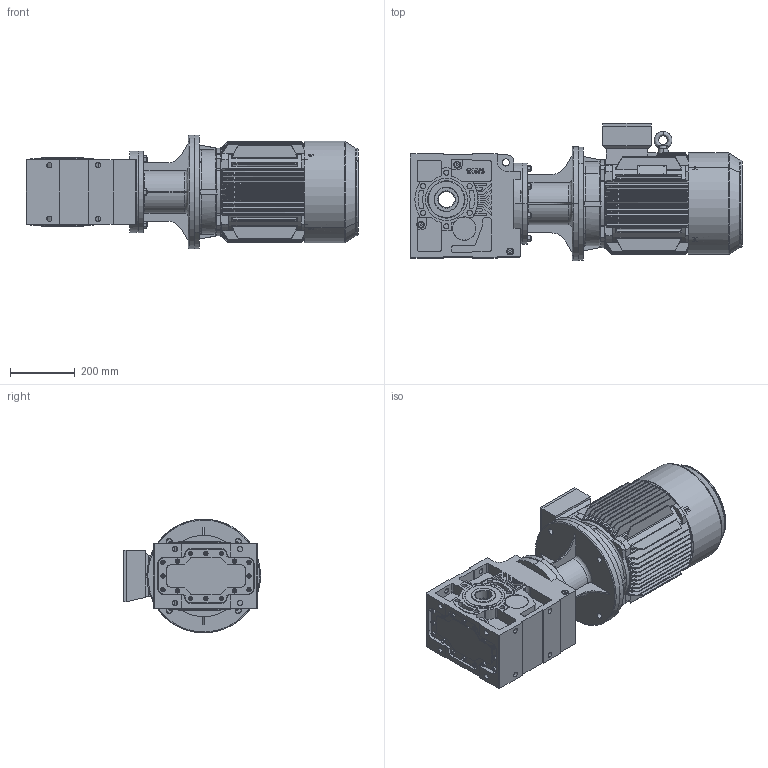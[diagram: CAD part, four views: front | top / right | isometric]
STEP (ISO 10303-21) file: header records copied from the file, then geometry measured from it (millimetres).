
FILE_DESCRIPTION (( 'STEP AP203' ), '1' );
FILE_NAME ('KV_473_0_M3-160M-4.STEP', '2019-07-18T12:09:14', ( '' ), ( '' ), 'SwSTEP 2.0', 'SolidWorks 2012', '' );
FILE_SCHEMA (( 'CONFIG_CONTROL_DESIGN' ));
Length unit declared in the file: millimetre
Products named in the file (15): KV_473_0_M3-160M-4; Y2-160M+À+¿(B5)_-++ñ; Y2-160_shaft; +ª+§ªiY2-160ñ»ª­_-++ñ; M3-160M-FF-B5; Y2-160-2ª¥--®+_-++ñ; +¦i-MN2-160_-++ñ; Y2-160ñ»ª­+¿_-++ñ; Y2-160-180ñ»ª­®+_-++ñ; KN_47_3_0_A-B16_B5_ML58A_0_0_0_0_0_0_0_0_0_0_0_0_M1; Eyebolts GB_GB_FASTENER_SCREWS_FRS M12; Y2-160-4Ý¾6Ý¾8-ª+---®+_-++ñ; 43160B5_Varsayìlan; ML58A_Varsayìlan; K473_Varsayìlan
Assembly tree (14 placements, depth 4):
  KV_473_0_M3-160M-4
    KN_47_3_0_A-B16_B5_ML58A_0_0_0_0_0_0_0_0_0_0_0_0_M1
      K473_Varsayìlan
      43160B5_Varsayìlan
      ML58A_Varsayìlan
    M3-160M-FF-B5
      Eyebolts GB_GB_FASTENER_SCREWS_FRS M12
      Y2-160-4Ý¾6Ý¾8-ª+---®+_-++ñ
      +¦i-MN2-160_-++ñ
      Y2-160-2ª¥--®+_-++ñ
      +ª+§ªiY2-160ñ»ª­_-++ñ
        Y2-160-180ñ»ª­®+_-++ñ
        Y2-160ñ»ª­+¿_-++ñ
      Y2-160M+À+¿(B5)_-++ñ
      Y2-160_shaft
Bounding box: 1022 x 422 x 350 mm (x, y, z)
Volume: 29962012.9 mm3; surface area: 3542032 mm2
Topology: 11 solids, 11 shells, 2654 faces, 7019 edges, 4509 vertices
Faces by surface type: plane 1125, cylinder 966, cone 236, bspline 184, torus 103, sphere 40
Entity records: 125065 total; most frequent: CARTESIAN_POINT 60010, ORIENTED_EDGE 13882, DIRECTION 12168, EDGE_CURVE 6941, VERTEX_POINT 4494, AXIS2_PLACEMENT_3D 4347, LINE 3474, VECTOR 3474
